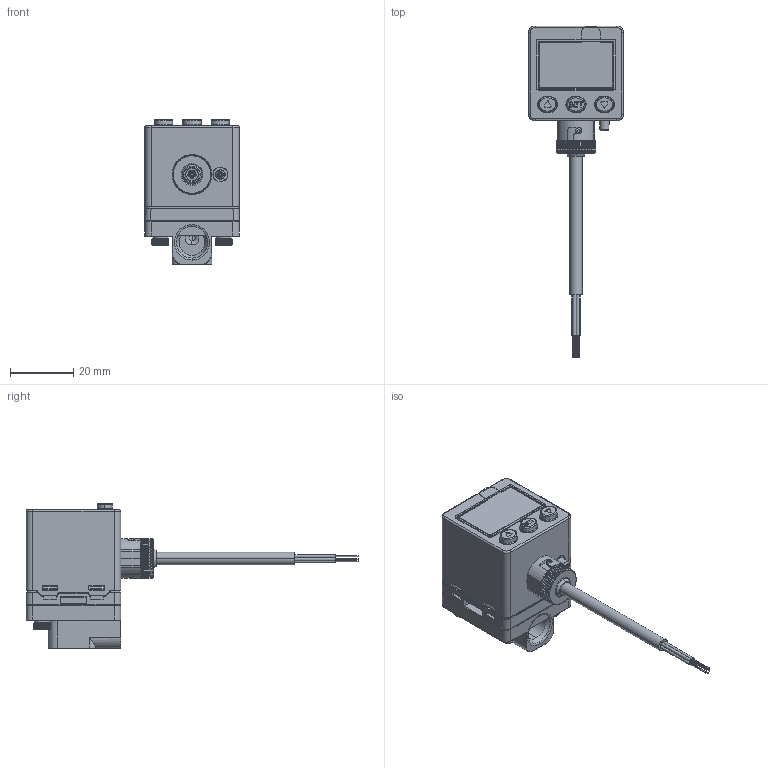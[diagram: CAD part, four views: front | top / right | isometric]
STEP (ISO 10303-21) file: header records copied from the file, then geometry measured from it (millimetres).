
FILE_DESCRIPTION((''),'2;1');
FILE_NAME('KP45X-FXC','2019-07-05T',('Stark'),(''),'CREO PARAMETRIC BY PTC INC, 2014500','CREO PARAMETRIC BY PTC INC, 2014500','');
FILE_SCHEMA(('CONFIG_CONTROL_DESIGN'));
Products named in the file (1): KP45X-FXC
Bounding box: 30.08 x 105.34 x 46 mm (x, y, z)
Volume: 34815.1 mm3; surface area: 9814 mm2
Topology: 1 solids, 3 shells, 1289 faces, 3384 edges, 2148 vertices
Faces by surface type: plane 555, cylinder 413, cone 193, bspline 70, torus 44, extrusion 10, sphere 4
Entity records: 54206 total; most frequent: CARTESIAN_POINT 24480, ORIENTED_EDGE 6764, DIRECTION 5348, EDGE_CURVE 3382, VERTEX_POINT 2148, AXIS2_PLACEMENT_3D 1942, VECTOR 1464, LINE 1454
